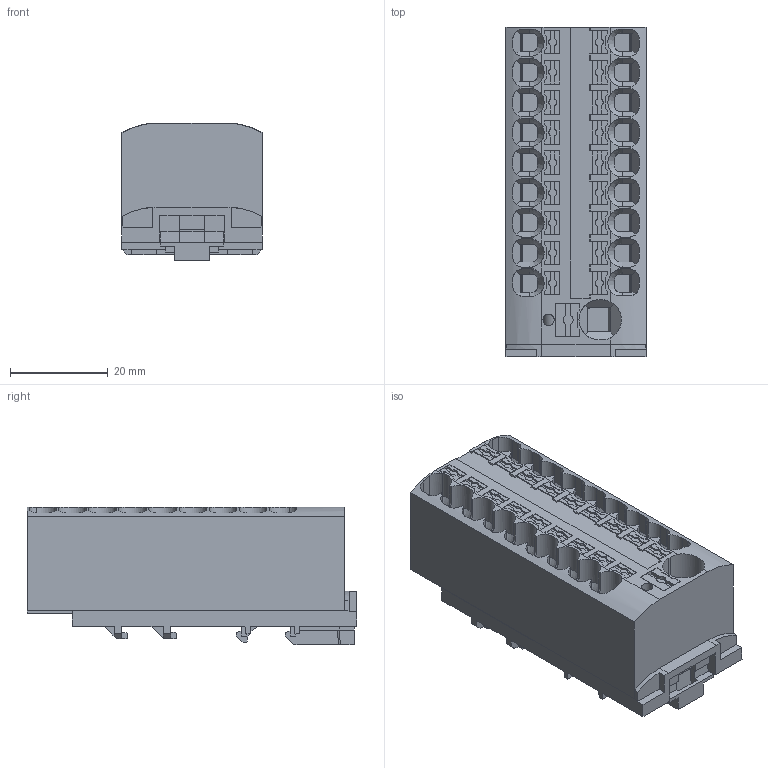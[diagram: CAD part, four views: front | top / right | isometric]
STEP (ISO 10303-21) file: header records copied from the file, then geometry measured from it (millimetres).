
FILE_DESCRIPTION(/* description */ ('Unknown'),/* implementation_level */ '2;1');
FILE_NAME(/* name */ 'PTFIX 10／18X4-NS35 GNJP 1277642',/* time_stamp */ '2021-05-27T19:48:13+09:00',/* author */ ('Unknown'),/* organization */ ('Unknown'),/* preprocessor_version */ 'ST-DEVELOPER v16.7',/* originating_system */ 'Solid Edge',/* authorisation */ 'Unknown');
FILE_SCHEMA (('TECHNICAL_DATA_PACKAGING','AUTOMOTIVE_DESIGN {1 0 10303 214 3 1 1}'));
Products named in the file (3): PTFIX 10／18X4-NS35 GNJP 1277642ﾘ羌.; pxc_3273908_01_PTFIX-10-18X4-GN_3D; pxc_3274054_00_PTFIX-NS35_3D
Assembly tree (2 placements, depth 2):
  PTFIX 10／18X4-NS35 GNJP 1277642ﾘ羌.
    pxc_3273908_01_PTFIX-10-18X4-GN_3D
    pxc_3274054_00_PTFIX-NS35_3D
Bounding box: 28.6 x 67.3 x 28.15 mm (x, y, z)
Volume: 38626.9 mm3; surface area: 18733.2 mm2
Topology: 2 solids, 2 shells, 1014 faces, 2953 edges, 1952 vertices
Faces by surface type: plane 803, cylinder 157, cone 54
Full cylindrical faces by diameter (mm): 2.3 x1
Entity records: 53696 total; most frequent: CARTESIAN_POINT 19831, ORIENTED_EDGE 5904, DIRECTION 5138, EDGE_CURVE 2952, LINE 2318, VECTOR 2318, VERTEX_POINT 1952, AXIS2_PLACEMENT_3D 1410
